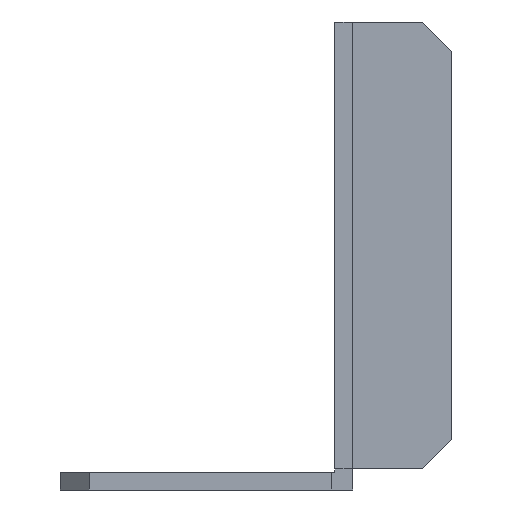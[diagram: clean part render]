
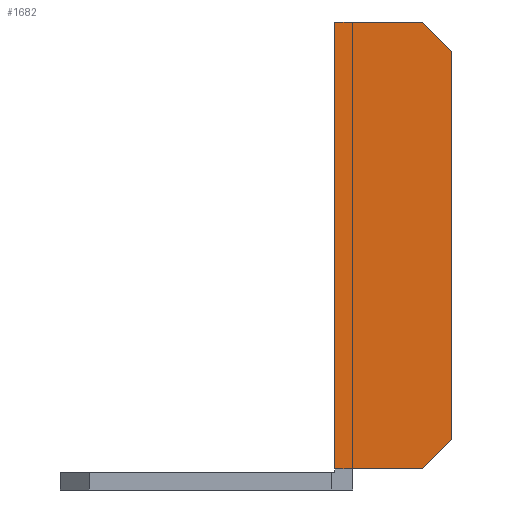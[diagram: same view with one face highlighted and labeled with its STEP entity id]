
A CAD part, left-side view. The second image highlights one B-rep face of the part: STEP entity #1682.
In plain terms, the highlighted planar face has unit normal (-1, 0, 0) as drawn and (1, 0, 0) by its records, which use the part's own axes.
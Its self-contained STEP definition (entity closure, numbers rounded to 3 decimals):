
#1304 = VERTEX_POINT('',#1305);
#1305 = CARTESIAN_POINT('',(21.3,0.,76.4));
#1311 = EDGE_CURVE('',#1304,#1312,#1314,.T.);
#1312 = VERTEX_POINT('',#1313);
#1313 = CARTESIAN_POINT('',(21.3,0.,0.));
#1314 = LINE('',#1315,#1316);
#1315 = CARTESIAN_POINT('',(21.3,0.,0.));
#1316 = VECTOR('',#1317,1.);
#1317 = DIRECTION('',(0.,0.,-1.));
#1561 = VERTEX_POINT('',#1562);
#1562 = CARTESIAN_POINT('',(21.3,-3.6,76.4));
#1568 = EDGE_CURVE('',#1561,#1304,#1569,.T.);
#1569 = LINE('',#1570,#1571);
#1570 = CARTESIAN_POINT('',(21.3,-3.6,76.4));
#1571 = VECTOR('',#1572,1.);
#1572 = DIRECTION('',(0.,1.,0.));
#1594 = EDGE_CURVE('',#1595,#1312,#1597,.T.);
#1595 = VERTEX_POINT('',#1596);
#1596 = CARTESIAN_POINT('',(21.3,-3.6,0.));
#1597 = LINE('',#1598,#1599);
#1598 = CARTESIAN_POINT('',(21.3,0.,0.));
#1599 = VECTOR('',#1600,1.);
#1600 = DIRECTION('',(0.,1.,-0.));
#1633 = EDGE_CURVE('',#1595,#1634,#1636,.T.);
#1634 = VERTEX_POINT('',#1635);
#1635 = CARTESIAN_POINT('',(21.3,-15.,0.));
#1636 = LINE('',#1637,#1638);
#1637 = CARTESIAN_POINT('',(21.3,0.,0.));
#1638 = VECTOR('',#1639,1.);
#1639 = DIRECTION('',(0.,-1.,0.));
#1655 = EDGE_CURVE('',#1656,#1561,#1658,.T.);
#1656 = VERTEX_POINT('',#1657);
#1657 = CARTESIAN_POINT('',(21.3,-15.,76.4));
#1658 = LINE('',#1659,#1660);
#1659 = CARTESIAN_POINT('',(21.3,0.,76.4));
#1660 = VECTOR('',#1661,1.);
#1661 = DIRECTION('',(0.,1.,0.));
#1682 = ADVANCED_FACE('',(#1683),#1712,.F.);
#1683 = FACE_BOUND('',#1684,.T.);
#1684 = EDGE_LOOP('',(#1685,#1695,#1701,#1702,#1703,#1704,#1705,#1706));
#1685 = ORIENTED_EDGE('',*,*,#1686,.F.);
#1686 = EDGE_CURVE('',#1687,#1689,#1691,.T.);
#1687 = VERTEX_POINT('',#1688);
#1688 = CARTESIAN_POINT('',(21.3,-20.,5.));
#1689 = VERTEX_POINT('',#1690);
#1690 = CARTESIAN_POINT('',(21.3,-20.,71.4));
#1691 = LINE('',#1692,#1693);
#1692 = CARTESIAN_POINT('',(21.3,-20.,0.));
#1693 = VECTOR('',#1694,1.);
#1694 = DIRECTION('',(0.,0.,1.));
#1695 = ORIENTED_EDGE('',*,*,#1696,.F.);
#1696 = EDGE_CURVE('',#1634,#1687,#1697,.T.);
#1697 = LINE('',#1698,#1699);
#1698 = CARTESIAN_POINT('',(21.3,-20.,5.));
#1699 = VECTOR('',#1700,1.);
#1700 = DIRECTION('',(0.,-0.707,0.707)
  );
#1701 = ORIENTED_EDGE('',*,*,#1633,.F.);
#1702 = ORIENTED_EDGE('',*,*,#1594,.T.);
#1703 = ORIENTED_EDGE('',*,*,#1311,.F.);
#1704 = ORIENTED_EDGE('',*,*,#1568,.F.);
#1705 = ORIENTED_EDGE('',*,*,#1655,.F.);
#1706 = ORIENTED_EDGE('',*,*,#1707,.F.);
#1707 = EDGE_CURVE('',#1689,#1656,#1708,.T.);
#1708 = LINE('',#1709,#1710);
#1709 = CARTESIAN_POINT('',(21.3,-15.,76.4));
#1710 = VECTOR('',#1711,1.);
#1711 = DIRECTION('',(0.,0.707,0.707)
  );
#1712 = PLANE('',#1713);
#1713 = AXIS2_PLACEMENT_3D('',#1714,#1715,#1716);
#1714 = CARTESIAN_POINT('',(21.3,0.,0.));
#1715 = DIRECTION('',(-1.,0.,0.));
#1716 = DIRECTION('',(0.,-1.,0.));
